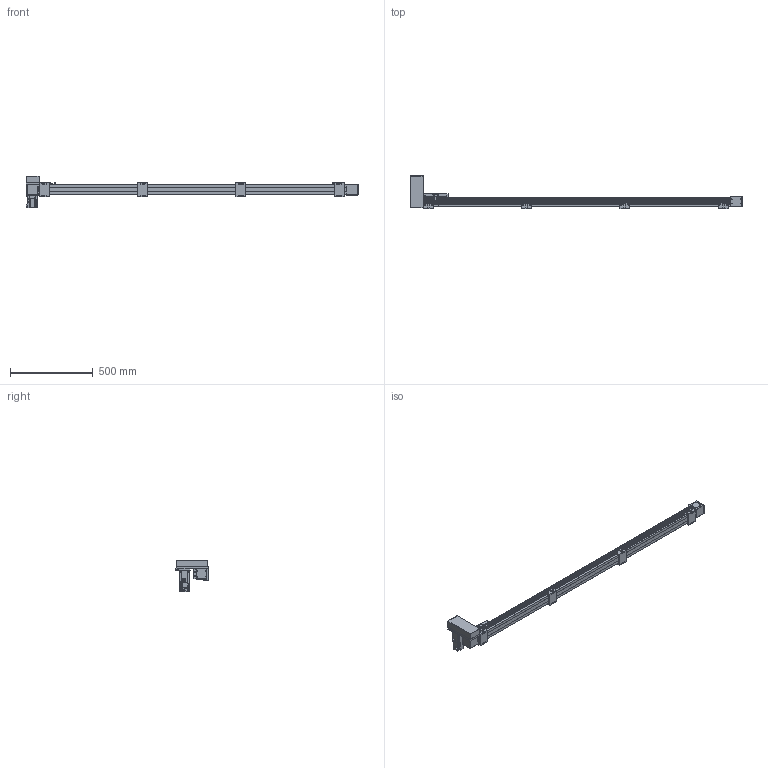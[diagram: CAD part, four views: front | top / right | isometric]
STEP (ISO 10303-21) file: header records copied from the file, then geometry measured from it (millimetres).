
FILE_DESCRIPTION(/* description */ ('STEP AP214'),/* implementation_level */ '2;1');
FILE_NAME(/* name */ 'SK60-P13-S1700-RU-T40-C1-N(0)',/* time_stamp */ '2023-04-06T05:04:40+02:00',/* author */ ('License CC BY-ND 4.0'),/* organization */ ('CADENAS'),/* preprocessor_version */ 'ST-DEVELOPER v19.3',/* originating_system */ 'PARTsolutions',/* authorisation */ ' ');
FILE_SCHEMA (('AUTOMOTIVE_DESIGN {1 0 10303 214 3 1 1}'));
Length unit declared in the file: millimetre
Products named in the file (10): SK60-P13-S1700-RU-T40-C1-N(0); PSC140-sensor; SK60-S450_seat; SK60-S450-BL-C1_slider; SK60_body3; SK60_body6; SK60-BL_body2; T40-p1; SK60-RU_fb; SK60-S1700-RU-C1_body
Assembly tree (18 placements, depth 2):
  SK60-P13-S1700-RU-T40-C1-N(0)
    PSC140-sensor  x3
    SK60-S450_seat  x4
    SK60-S450-BL-C1_slider
    SK60_body3  x3
    SK60_body6  x2
    SK60-BL_body2  x2
    T40-p1
    SK60-RU_fb
    SK60-S1700-RU-C1_body
Bounding box: 2005.5 x 201 x 189.7 mm (x, y, z)
Volume: 8017179.5 mm3; surface area: 970538.7 mm2
Topology: 18 solids, 18 shells, 898 faces, 2244 edges, 1477 vertices
Faces by surface type: plane 572, cylinder 294, cone 30, torus 2
Full cylindrical faces by diameter (mm): 2.8 x3, 3.3 x4, 4 x2, 4.5 x30, 4.6 x3, 4.917 x24, 5 x6, 5.478 x4, 5.5 x27, 6.5 x8, 7 x2, 8 x4, 8.5 x4, 9.988 x4, 10 x16, 14 x1, 47 x3, 50 x2
Entity records: 18671 total; most frequent: DIRECTION 3188, CARTESIAN_POINT 3152, ORIENTED_EDGE 2940, EDGE_CURVE 1470, AXIS2_PLACEMENT_3D 1070, LINE 1048, VECTOR 1048, VERTEX_POINT 1034
